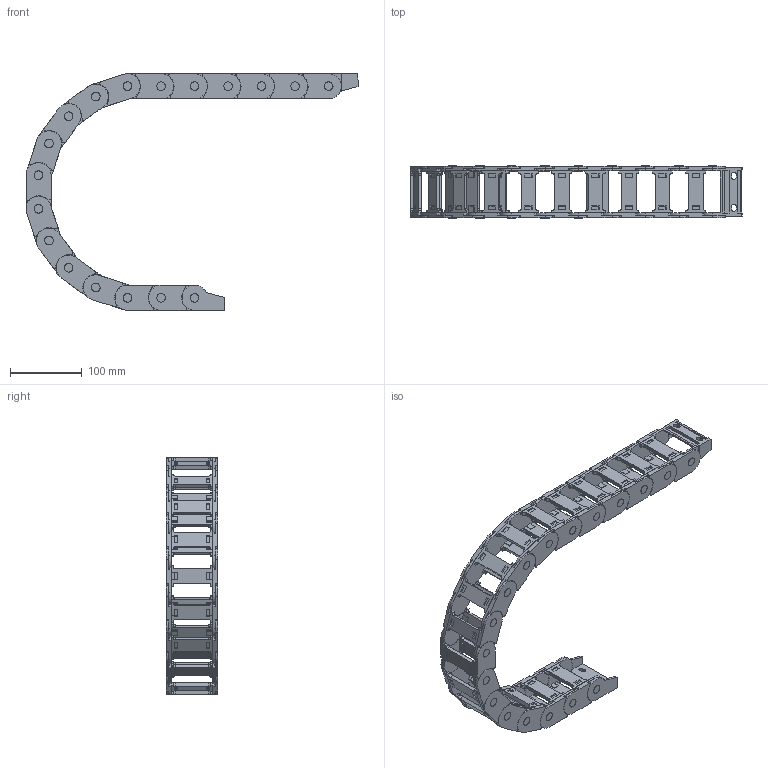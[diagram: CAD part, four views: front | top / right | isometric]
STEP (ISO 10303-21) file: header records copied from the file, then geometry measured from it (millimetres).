
FILE_DESCRIPTION((''),'2;1');
FILE_NAME('QS-25X57-R150_ASM','2022-06-10T16:30:35',('admin'),(''),'CREO PARAMETRIC BY PTC INC, 2021164','CREO PARAMETRIC BY PTC INC, 2021164','');
FILE_SCHEMA(('CONFIG_CONTROL_DESIGN','GEOMETRIC_VALIDATION_PROPERTIES_MIM'));
Length unit declared in the file: millimetre
Products named in the file (7): 25XL-L; 25XL-R; PIAN-25; ASM0001_ASM; 25X57-LTT-1; 25X57-LTT-2; QS-25X57-R150_ASM
Assembly tree (23 placements, depth 3):
  QS-25X57-R150_ASM
    ASM0001_ASM  x17
      25XL-L
      25XL-R
      PIAN-25
    25X57-LTT-1
    25X57-LTT-2
Bounding box: 461.71 x 72 x 329.22 mm (x, y, z)
Volume: 607284.8 mm3; surface area: 372345.9 mm2
Topology: 70 solids, 70 shells, 2736 faces, 7790 edges, 5232 vertices
Faces by surface type: plane 2104, cylinder 632
Entity records: 8193 total; most frequent: CARTESIAN_POINT 1305, DIRECTION 1160, ORIENTED_EDGE 1144, EDGE_CURVE 572, VECTOR 448, LINE 448, VERTEX_POINT 388, AXIS2_PLACEMENT_3D 356
